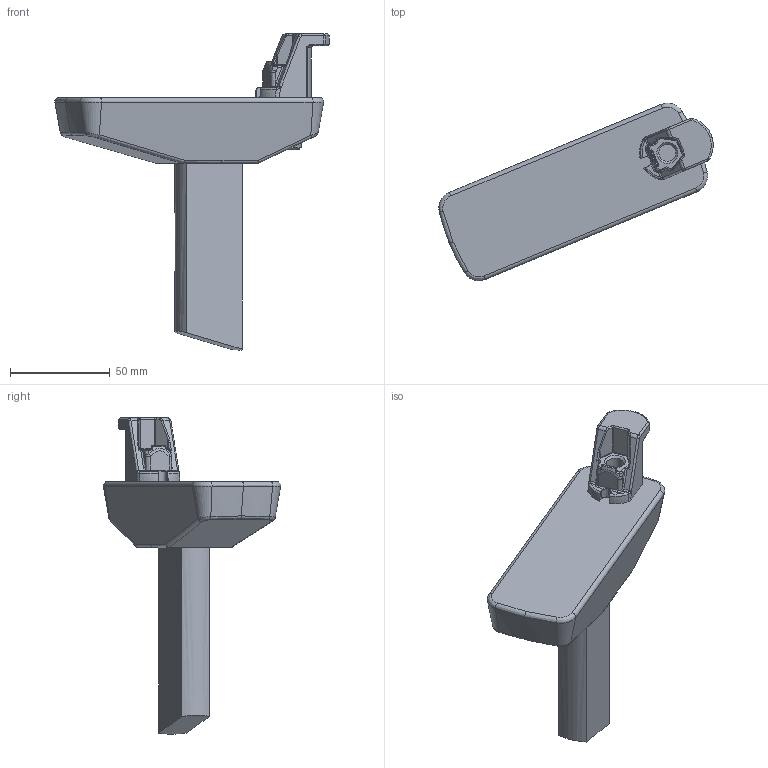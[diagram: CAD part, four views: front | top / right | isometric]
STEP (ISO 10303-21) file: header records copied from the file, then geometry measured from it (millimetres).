
FILE_DESCRIPTION( ('This file contains a STEP AP42 implementation' ,'as created by ZW3D STEP Interface translator.') ,'2;1' );
FILE_NAME( 'TW28HO.stp' ,'14 410.13 125', (''), ('ZWCAD Software Co.'), 'Version 1.0', 'ZW3D to STEP translator', '' );
FILE_SCHEMA( ('CONFIG_CONTROL_DESIGN') );
Length unit declared in the file: millimetre
Products named in the file (4): 0; TW28HO; Fuss; 3008844b_Einhaenger TW28HO
Assembly tree (2 placements, depth 2):
  0
  TW28HO
    Fuss
    3008844b_Einhaenger TW28HO
Bounding box: 137.19 x 88.71 x 158.14 mm (x, y, z)
Volume: 202284.9 mm3; surface area: 33984.9 mm2
Topology: 3 solids, 3 shells, 204 faces, 478 edges, 278 vertices
Faces by surface type: bspline 204
Entity records: 10863 total; most frequent: CARTESIAN_POINT 7874, ORIENTED_EDGE 948, EDGE_CURVE 474, B_SPLINE_CURVE_WITH_KNOTS 317, VERTEX_POINT 278, EDGE_LOOP 210, FACE_OUTER_BOUND 204, ADVANCED_FACE 204
